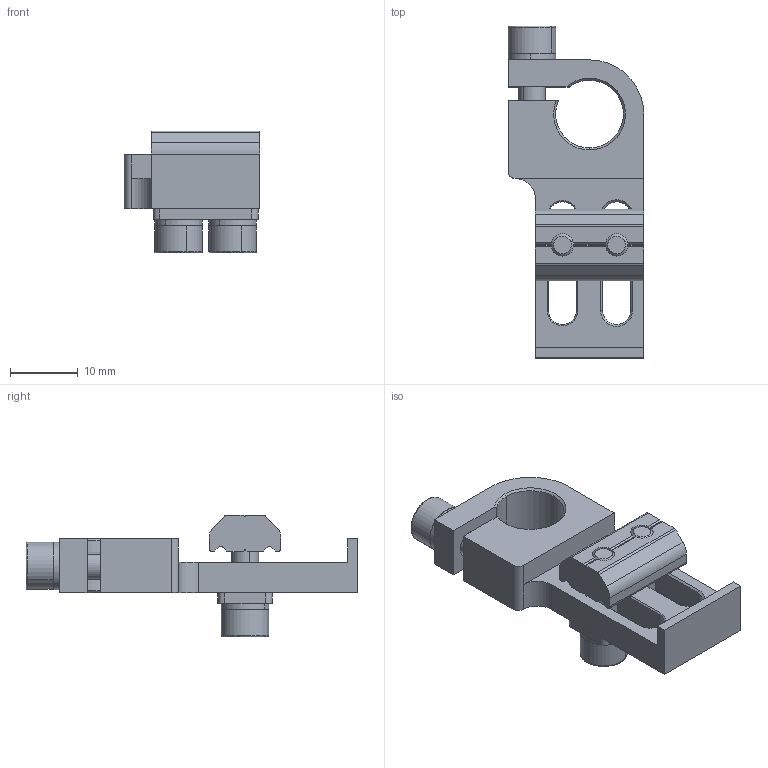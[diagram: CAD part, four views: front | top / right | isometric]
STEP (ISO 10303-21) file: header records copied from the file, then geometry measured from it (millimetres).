
FILE_DESCRIPTION (( 'STEP AP214' ), '1' );
FILE_NAME ('SMBE-1014T.STEP', '2022-12-13T07:29:15', ( '' ), ( '' ), 'SwSTEP 2.0', 'SolidWorks 2018', '' );
FILE_SCHEMA (( 'AUTOMOTIVE_DESIGN' ));
Length unit declared in the file: millimetre
Products named in the file (1): SMBE-1014T
Bounding box: 20 x 49 x 18 mm (x, y, z)
Volume: 4964.4 mm3; surface area: 5111.4 mm2
Topology: 9 solids, 9 shells, 767 faces, 2198 edges, 1444 vertices
Faces by surface type: plane 666, cylinder 69, cone 26, bspline 6
Entity records: 34152 total; most frequent: CARTESIAN_POINT 4984, ORIENTED_EDGE 4392, DIRECTION 4380, EDGE_CURVE 2196, AXIS2_PLACEMENT_3D 1470, VERTEX_POINT 1444, LINE 1440, VECTOR 1440
